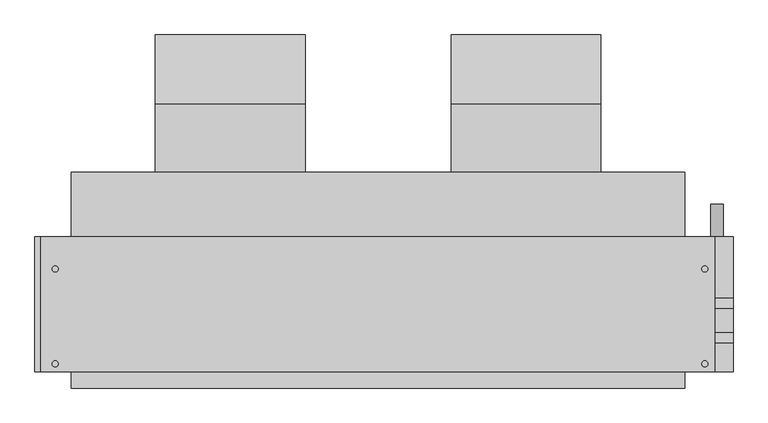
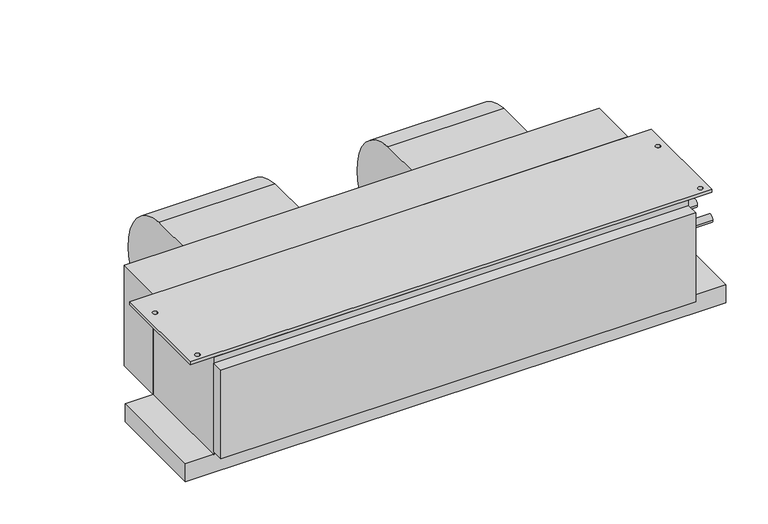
"""IFC4 building model written with IfcOpenShell, lengths in millimetres: proxy geometry, Concealed_Horizontal_Fan_Coil_Unit_-_42CAA_-_CARRIER_-_2-Pipe_Cool-EHeat_RH_2022 : Size 08 - 277v/60Hz/1Ph - 4 Row 6.0kW."""

from ifc_helpers import new_model, si_unit, point, frame, frame_2d, origin, place, context, project, spatial, polyline, circle_curve, trimmed, segment, composite_curve, outline, extrude, source, transform, mapped, element, save


def mechanical_equipment_b4faf0b1(model_context):
    return source(origin(), model_context, "Body", "SweptSolid", [
        extrude(outline(composite_curve([segment(trimmed(circle_curve(frame_2d((68.401169, -136.0299844)), 117.3559541), [point((77.7875, -19.05))], [point((185.7375, -138.176))], False, "CARTESIAN"), True, "CONTINUOUS"), segment(trimmed(circle_curve(frame_2d((90.0022663, -136.4250563)), 95.7512443), [point((185.7375, -138.176))], [point((77.7875, -231.394))], False, "CARTESIAN"), True, "CONTINUOUS"), segment(trimmed(circle_curve(frame_2d((89.9711869, -136.6666968)), 95.5076133), [point((77.7875, -231.394))], [point((-5.5245, -138.176))], False, "CARTESIAN"), True, "CONTINUOUS"), segment(trimmed(circle_curve(frame_2d((-24.6059828, -138.4775816)), 19.0838659), [point((-5.5245, -138.176))], [point((-17.7963373, -120.65))], True, "CARTESIAN"), True, "CONTINUOUS"), segment(polyline([(-17.7963373, -120.65), (-30.1625, -120.65), (-30.1625, -19.05), (77.7875, -19.05)]), True, "CONTINUOUS")], self_intersect=False)), frame((267.5255, 0.0, 0.0), z_axis=(1.0, 0.0, 0.0), x_axis=(0.0, 1.0, 0.0)), (0.0, 0.0, 1.0), 235.712),
        extrude(outline(composite_curve([segment(trimmed(circle_curve(frame_2d((68.401169, -136.0299844)), 117.3559541), [point((77.7875, -19.05))], [point((185.7375, -138.176))], False, "CARTESIAN"), True, "CONTINUOUS"), segment(trimmed(circle_curve(frame_2d((90.0022663, -136.4250563)), 95.7512443), [point((185.7375, -138.176))], [point((77.7875, -231.394))], False, "CARTESIAN"), True, "CONTINUOUS"), segment(trimmed(circle_curve(frame_2d((89.9711869, -136.6666968)), 95.5076133), [point((77.7875, -231.394))], [point((-5.5245, -138.176))], False, "CARTESIAN"), True, "CONTINUOUS"), segment(trimmed(circle_curve(frame_2d((-24.6059828, -138.4775816)), 19.0838659), [point((-5.5245, -138.176))], [point((-17.7963373, -120.65))], True, "CARTESIAN"), True, "CONTINUOUS"), segment(polyline([(-17.7963373, -120.65), (-30.1625, -120.65), (-30.1625, -19.05), (77.7875, -19.05)]), True, "CONTINUOUS")], self_intersect=False)), frame((-197.612, 0.0, 0.0), z_axis=(1.0, 0.0, 0.0), x_axis=(0.0, 1.0, 0.0)), (0.0, 0.0, 1.0), 235.712),
        extrude(outline(polyline([(682.625, -131.7625), (682.625, -344.4875), (-377.825, -344.4875), (-377.825, -131.7625), (682.625, -131.7625)]), holes=[composite_curve([segment(trimmed(circle_curve(frame_2d((-355.6, -182.5625)), 4.7625), [point((-360.3625, -182.5625))], [point((-350.8375, -182.5625))], True, "CARTESIAN"), True, "CONTINUOUS"), segment(trimmed(circle_curve(frame_2d((-355.6, -182.5625)), 4.7625), [point((-350.8375, -182.5625))], [point((-360.3625, -182.5625))], True, "CARTESIAN"), True, "CONTINUOUS")], self_intersect=False), composite_curve([segment(trimmed(circle_curve(frame_2d((-355.6, -331.7875)), 4.7625), [point((-360.3625, -331.7875))], [point((-350.8375, -331.7875))], True, "CARTESIAN"), True, "CONTINUOUS"), segment(trimmed(circle_curve(frame_2d((-355.6, -331.7875)), 4.7625), [point((-350.8375, -331.7875))], [point((-360.3625, -331.7875))], True, "CARTESIAN"), True, "CONTINUOUS")], self_intersect=False), composite_curve([segment(trimmed(circle_curve(frame_2d((666.75, -182.5625)), 4.7625), [point((661.9875, -182.5625))], [point((671.5125, -182.5625))], True, "CARTESIAN"), True, "CONTINUOUS"), segment(trimmed(circle_curve(frame_2d((666.75, -182.5625)), 4.7625), [point((671.5125, -182.5625))], [point((661.9875, -182.5625))], True, "CARTESIAN"), True, "CONTINUOUS")], self_intersect=False), composite_curve([segment(trimmed(circle_curve(frame_2d((666.75, -331.7875)), 4.7625), [point((661.9875, -331.7875))], [point((671.5125, -331.7875))], True, "CARTESIAN"), True, "CONTINUOUS"), segment(trimmed(circle_curve(frame_2d((666.75, -331.7875)), 4.7625), [point((671.5125, -331.7875))], [point((661.9875, -331.7875))], True, "CARTESIAN"), True, "CONTINUOUS")], self_intersect=False)]), frame((0.0, 0.0, -6.35), z_axis=(0.0, 0.0, 1.0), x_axis=(1.0, 0.0, 0.0)), (0.0, 0.0, 1.0), 6.35),
        extrude(outline(polyline([(-330.2, -30.1625), (635.0, -30.1625), (635.0, -131.7625), (-330.2, -131.7625), (-330.2, -30.1625)])), frame((0.0, 0.0, -215.9), z_axis=(0.0, 0.0, 1.0), x_axis=(1.0, 0.0, 0.0)), (0.0, 0.0, 1.0), 215.9),
        extrude(outline(composite_curve([segment(trimmed(circle_curve(frame_2d((-241.3, 685.8)), 9.525), [point((-241.3, 676.275))], [point((-241.3, 695.325))], False, "CARTESIAN"), True, "CONTINUOUS"), segment(trimmed(circle_curve(frame_2d((-241.3, 685.8)), 9.525), [point((-241.3, 695.325))], [point((-241.3, 676.275))], False, "CARTESIAN"), True, "CONTINUOUS")], self_intersect=False)), frame((0.0, -131.7625, 0.0), z_axis=(0.0, 1.0, 0.0), x_axis=(0.0, 0.0, 1.0)), (0.0, 0.0, 1.0), 50.8),
        extrude(outline(polyline([(635.0, -369.8875), (-330.2, -369.8875), (-330.2, -344.4875), (635.0, -344.4875), (635.0, -369.8875)])), frame((0.0, 0.0, -209.55), z_axis=(0.0, 0.0, 1.0), x_axis=(1.0, 0.0, 0.0)), (0.0, 0.0, 1.0), 190.5),
        extrude(outline(polyline([(711.2, -131.7625), (711.2, -344.4875), (-387.35, -344.4875), (-387.35, -131.7625), (711.2, -131.7625)])), frame((0.0, 0.0, -254.0), z_axis=(0.0, 0.0, 1.0), x_axis=(1.0, 0.0, 0.0)), (0.0, 0.0, 1.0), 38.1),
        extrude(outline(composite_curve([segment(trimmed(circle_curve(frame_2d((-290.5125, -104.775)), 7.9375), [point((-298.45, -104.775))], [point((-282.575, -104.775))], False, "CARTESIAN"), True, "CONTINUOUS"), segment(trimmed(circle_curve(frame_2d((-290.5125, -104.775)), 7.9375), [point((-282.575, -104.775))], [point((-298.45, -104.775))], False, "CARTESIAN"), True, "CONTINUOUS")], self_intersect=False)), frame((635.0, 0.0, 0.0), z_axis=(1.0, 0.0, 0.0), x_axis=(0.0, 1.0, 0.0)), (0.0, 0.0, 1.0), 76.2),
        extrude(outline(composite_curve([segment(trimmed(circle_curve(frame_2d((-236.5375, -104.775)), 7.9375), [point((-244.475, -104.775))], [point((-228.6, -104.775))], False, "CARTESIAN"), True, "CONTINUOUS"), segment(trimmed(circle_curve(frame_2d((-236.5375, -104.775)), 7.9375), [point((-228.6, -104.775))], [point((-244.475, -104.775))], False, "CARTESIAN"), True, "CONTINUOUS")], self_intersect=False)), frame((635.0, 0.0, 0.0), z_axis=(1.0, 0.0, 0.0), x_axis=(0.0, 1.0, 0.0)), (0.0, 0.0, 1.0), 76.2),
        extrude(outline(polyline([(635.0, -344.4875), (-330.2, -344.4875), (-330.2, -131.7625), (635.0, -131.7625), (635.0, -344.4875)])), frame((0.0, 0.0, -215.9), z_axis=(0.0, 0.0, 1.0), x_axis=(1.0, 0.0, 0.0)), (0.0, 0.0, 1.0), 209.55),
    ])


if __name__ == "__main__":
    model = new_model("IFC4")
    model_context = context("Model", 3, world=origin())
    ifc_project = project(units=[si_unit("LENGTHUNIT", "METRE", prefix="MILLI")], contexts=[model_context])
    site = spatial("IfcSite", under=ifc_project)
    building = spatial("IfcBuilding", under=site)
    placement = place(None, origin())
    mechanical_equipment_shape = mechanical_equipment_b4faf0b1(model_context)
    element("IfcBuildingElementProxy", 1, Name="Concealed_Horizontal_Fan_Coil_Unit_-_42CAA_-_CARRIER_-_2-Pipe_Cool-EHeat_RH_2022 : Size 08 - 277v/60Hz/1Ph - 4 Row 6.0kW", ObjectType="Concealed_Horizontal_Fan_Coil_Unit_-_42CAA_-_CARRIER_-_2-Pipe_Cool-EHeat_RH_2022 : Size 08 - 277v/60Hz/1Ph - 4 Row 6.0kW", at=placement, inside=building, context=model_context, shape_type="MappedRepresentation", body=[
        mapped(mechanical_equipment_shape, transform((0.0, 0.0, 0.0), x_axis=(1.0, 0.0, 0.0), y_axis=(0.0, 1.0, 0.0), z_axis=(0.0, 0.0, 1.0))),
    ])
    save(model, "model.ifc")
